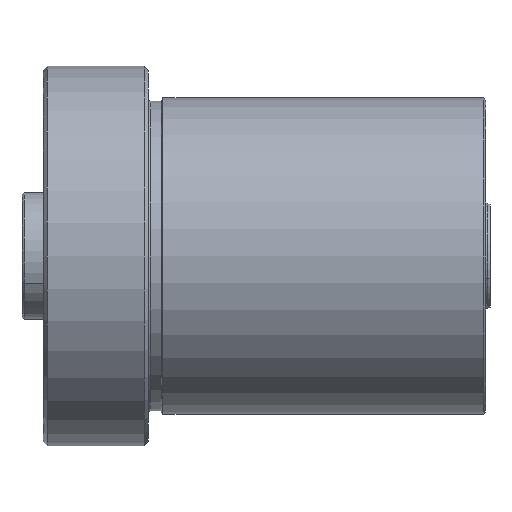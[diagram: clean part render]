
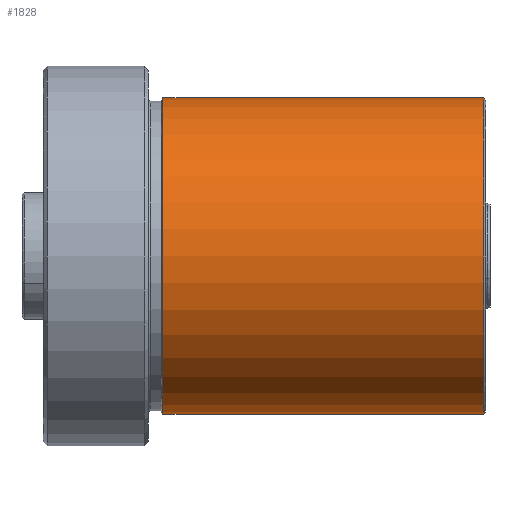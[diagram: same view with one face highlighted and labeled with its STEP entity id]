
A CAD part, left-side view. The second image highlights one B-rep face of the part: STEP entity #1828.
In plain terms, the highlighted cylindrical face has radius 37.5 mm (diameter 75 mm), a partial arc.
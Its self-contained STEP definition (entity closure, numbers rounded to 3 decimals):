
#169 = DIRECTION ( 'NONE',  ( 0., -1., 0. ) ) ;
#313 = VECTOR ( 'NONE', #3448, 1000. ) ;
#349 = DIRECTION ( 'NONE',  ( 0., 0., -1. ) ) ;
#355 = CARTESIAN_POINT ( 'NONE',  ( 0., -9.993, 37.5 ) ) ;
#428 = AXIS2_PLACEMENT_3D ( 'NONE', #1592, #3735, #349 ) ;
#434 = CARTESIAN_POINT ( 'NONE',  ( 0., 76.567, 0. ) ) ;
#509 = CARTESIAN_POINT ( 'NONE',  ( 0., 0.433, 37.5 ) ) ;
#753 = VERTEX_POINT ( 'NONE', #1941 ) ;
#787 = CIRCLE ( 'NONE', #1935, 37.5 ) ;
#926 = EDGE_CURVE ( 'NONE', #1932, #1190, #2710, .T. ) ;
#1091 = FACE_OUTER_BOUND ( 'NONE', #2215, .T. ) ;
#1101 = CIRCLE ( 'NONE', #3906, 37.5 ) ;
#1136 = DIRECTION ( 'NONE',  ( 0., -1., 0. ) ) ;
#1190 = VERTEX_POINT ( 'NONE', #2831 ) ;
#1239 = LINE ( 'NONE', #355, #313 ) ;
#1345 = ORIENTED_EDGE ( 'NONE', *, *, #1453, .T. ) ;
#1398 = DIRECTION ( 'NONE',  ( 0., 0., -1. ) ) ;
#1453 = EDGE_CURVE ( 'NONE', #753, #1932, #787, .T. ) ;
#1592 = CARTESIAN_POINT ( 'NONE',  ( 0., -9.993, 0. ) ) ;
#1795 = CARTESIAN_POINT ( 'NONE',  ( 0., 0.433, 0. ) ) ;
#1828 = ADVANCED_FACE ( 'NONE', ( #1091 ), #1949, .T. ) ;
#1932 = VERTEX_POINT ( 'NONE', #3194 ) ;
#1935 = AXIS2_PLACEMENT_3D ( 'NONE', #434, #169, #1398 ) ;
#1941 = CARTESIAN_POINT ( 'NONE',  ( 0., 76.567, 37.5 ) ) ;
#1949 = CYLINDRICAL_SURFACE ( 'NONE', #428, 37.5 ) ;
#2126 = DIRECTION ( 'NONE',  ( 0., 0., -1. ) ) ;
#2139 = DIRECTION ( 'NONE',  ( 0., -1., 0. ) ) ;
#2215 = EDGE_LOOP ( 'NONE', ( #3022, #1345, #3647, #2302 ) ) ;
#2302 = ORIENTED_EDGE ( 'NONE', *, *, #3036, .F. ) ;
#2596 = CARTESIAN_POINT ( 'NONE',  ( 0., -9.993, -37.5 ) ) ;
#2608 = VECTOR ( 'NONE', #1136, 1000. ) ;
#2640 = VERTEX_POINT ( 'NONE', #509 ) ;
#2710 = LINE ( 'NONE', #2596, #2608 ) ;
#2775 = EDGE_CURVE ( 'NONE', #753, #2640, #1239, .T. ) ;
#2831 = CARTESIAN_POINT ( 'NONE',  ( 0., 0.433, -37.5 ) ) ;
#3022 = ORIENTED_EDGE ( 'NONE', *, *, #2775, .F. ) ;
#3036 = EDGE_CURVE ( 'NONE', #2640, #1190, #1101, .T. ) ;
#3194 = CARTESIAN_POINT ( 'NONE',  ( 0., 76.567, -37.5 ) ) ;
#3448 = DIRECTION ( 'NONE',  ( 0., -1., 0. ) ) ;
#3647 = ORIENTED_EDGE ( 'NONE', *, *, #926, .T. ) ;
#3735 = DIRECTION ( 'NONE',  ( 0., -1., 0. ) ) ;
#3906 = AXIS2_PLACEMENT_3D ( 'NONE', #1795, #2139, #2126 ) ;
